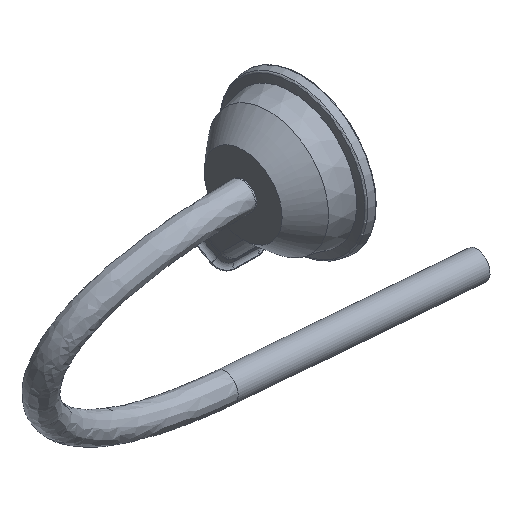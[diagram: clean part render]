
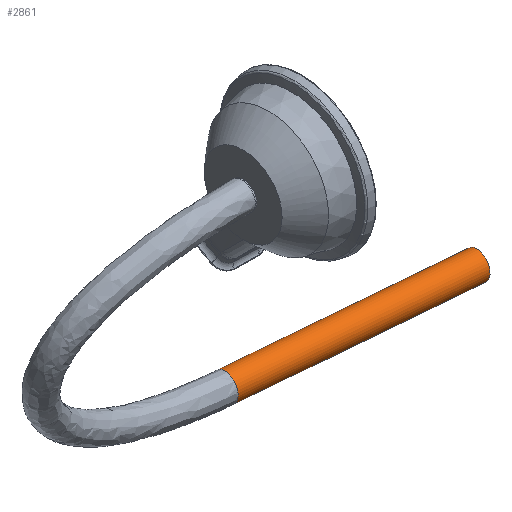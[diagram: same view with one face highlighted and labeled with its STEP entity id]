
A CAD part, isometric view. The second image highlights one B-rep face of the part: STEP entity #2861.
In plain terms, the highlighted cylindrical face has radius 22.5 mm (diameter 45 mm), a full revolution.
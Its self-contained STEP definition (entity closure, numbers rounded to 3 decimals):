
#15 = DIRECTION ( 'NONE',  ( -0.996, 0.087, 0. ) ) ;
#77 = FACE_OUTER_BOUND ( 'NONE', #5080, .T. ) ;
#515 = CIRCLE ( 'NONE', #1551, 22.5 ) ;
#562 = DIRECTION ( 'NONE',  ( -0.06, -0.689, 0.723 ) ) ;
#859 = FACE_OUTER_BOUND ( 'NONE', #4460, .T. ) ;
#1371 = CIRCLE ( 'NONE', #1719, 22.5 ) ;
#1551 = AXIS2_PLACEMENT_3D ( 'NONE', #1940, #4870, #3938 ) ;
#1719 = AXIS2_PLACEMENT_3D ( 'NONE', #3048, #5196, #562 ) ;
#1940 = CARTESIAN_POINT ( 'NONE',  ( 780., 76.573, 1566.269 ) ) ;
#2003 = ORIENTED_EDGE ( 'NONE', *, *, #4702, .F. ) ;
#2300 = CARTESIAN_POINT ( 'NONE',  ( 391.641, 94.938, 1582.529 ) ) ;
#2590 = AXIS2_PLACEMENT_3D ( 'NONE', #2938, #15, #4861 ) ;
#2716 = CARTESIAN_POINT ( 'NONE',  ( 778.645, 61.08, 1582.529 ) ) ;
#2784 = ORIENTED_EDGE ( 'NONE', *, *, #3044, .T. ) ;
#2861 = ADVANCED_FACE ( 'NONE', ( #77, #859 ), #4194, .T. ) ;
#2938 = CARTESIAN_POINT ( 'NONE',  ( 780., 76.573, 1566.269 ) ) ;
#3044 = EDGE_CURVE ( 'NONE', #4004, #4004, #1371, .T. ) ;
#3048 = CARTESIAN_POINT ( 'NONE',  ( 392.996, 110.431, 1566.269 ) ) ;
#3488 = VERTEX_POINT ( 'NONE', #2716 ) ;
#3938 = DIRECTION ( 'NONE',  ( -0.06, -0.689, 0.723 ) ) ;
#4004 = VERTEX_POINT ( 'NONE', #2300 ) ;
#4194 = CYLINDRICAL_SURFACE ( 'NONE', #2590, 22.5 ) ;
#4460 = EDGE_LOOP ( 'NONE', ( #2003 ) ) ;
#4702 = EDGE_CURVE ( 'NONE', #3488, #3488, #515, .T. ) ;
#4861 = DIRECTION ( 'NONE',  ( -0.087, -0.996, 0. ) ) ;
#4870 = DIRECTION ( 'NONE',  ( 0.996, -0.087, 0. ) ) ;
#5080 = EDGE_LOOP ( 'NONE', ( #2784 ) ) ;
#5196 = DIRECTION ( 'NONE',  ( 0.996, -0.087, 0. ) ) ;
